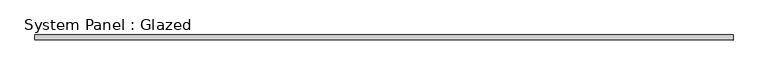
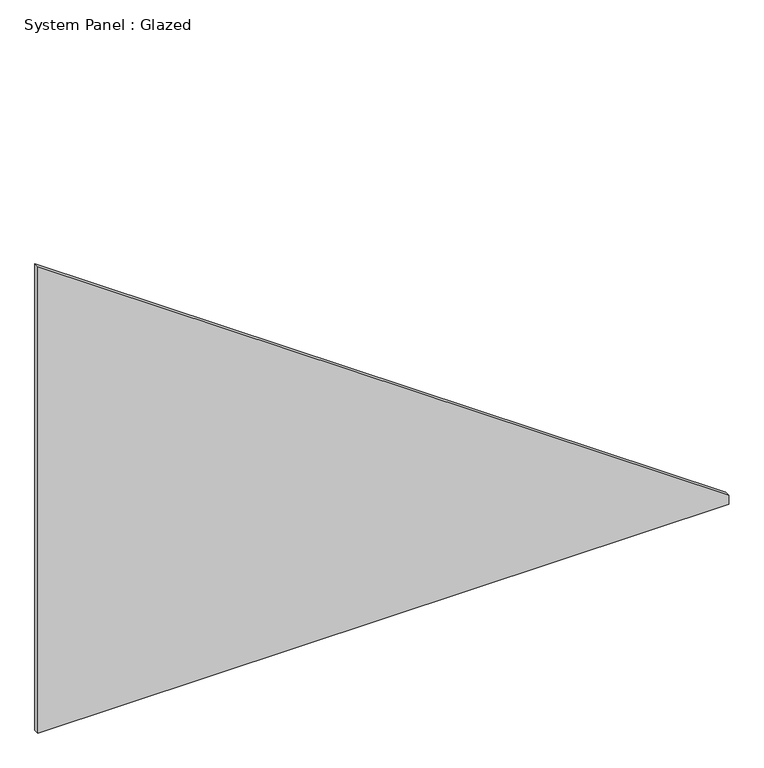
"""IFC4 building model written with IfcOpenShell, lengths in millimetres: plate geometry, System Panel : Glazed."""

from ifc_helpers import new_model, si_unit, frame, origin, place, context, project, spatial, polyline, outline, extrude, source, transform, mapped, element, save


def system_panel_glazed_722d5f76(model_context):
    return source(origin(), model_context, "Body", "SweptSolid", [
        extrude(outline(polyline([(0.0, -692.5154615), (0.0, 692.5154615), (18.9716475, 692.5154615), (988.7807405, -692.5154615), (0.0, -692.5154615)])), frame((0.0, -5.0, 0.0), z_axis=(0.0, 1.0, 0.0), x_axis=(0.0, 0.0, 1.0)), (0.0, 0.0, 1.0), 10.0),
    ])


if __name__ == "__main__":
    model = new_model("IFC4")
    model_context = context("Model", 3, world=origin())
    ifc_project = project(units=[si_unit("LENGTHUNIT", "METRE", prefix="MILLI")], contexts=[model_context])
    site = spatial("IfcSite", under=ifc_project)
    building = spatial("IfcBuilding", under=site)
    placement = place(None, origin())
    system_panel_glazed_shape = system_panel_glazed_722d5f76(model_context)
    element("IfcPlate", 1, ObjectType="System Panel : Glazed", at=placement, inside=building, context=model_context, shape_type="MappedRepresentation", body=[
        mapped(system_panel_glazed_shape, transform((0.0, 0.0, 0.0), x_axis=(1.0, 0.0, 0.0), y_axis=(0.0, 1.0, 0.0), z_axis=(0.0, 0.0, 1.0))),
    ])
    save(model, "model.ifc")
